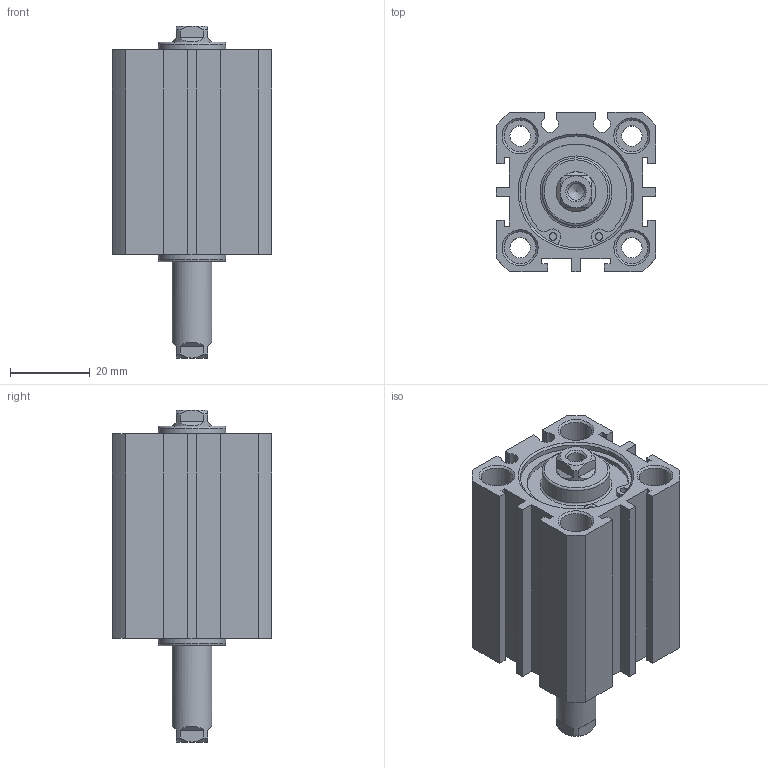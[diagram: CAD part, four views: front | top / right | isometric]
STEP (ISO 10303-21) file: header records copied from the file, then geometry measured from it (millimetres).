
FILE_DESCRIPTION((''),'2;1');
FILE_NAME('I:\3D電子目錄\氣缸\JDD\JDD-S\JDD25-S\JDD25x20-S.stp','2007-02-08T14:24:48',('662F206'),(''),'Autodesk Inventor 10','Autodesk Inventor 10','');
FILE_SCHEMA(('AUTOMOTIVE_DESIGN { 1 0 10303 214 1 1 1 1 }'));
Length unit declared in the file: millimetre
Products named in the file (3): JDD25-S; R 形環 28
Assembly tree (3 placements, depth 2):
  JDD25-S
    JDD25-S
    R 形環 28  x2
Bounding box: 40 x 40 x 83.2 mm (x, y, z)
Volume: 67245.8 mm3; surface area: 21809.5 mm2
Topology: 3 solids, 3 shells, 172 faces, 410 edges, 266 vertices
Faces by surface type: plane 92, cylinder 46, cone 22, bspline 10, torus 2
Full cylindrical faces by diameter (mm): 1.5 x2, 1.9 x4, 5.1 x4, 8 x8, 10 x2, 17 x2, 28 x4, 29.4 x2
Entity records: 4529 total; most frequent: CARTESIAN_POINT 950, DIRECTION 740, ORIENTED_EDGE 640, EDGE_CURVE 320, AXIS2_PLACEMENT_3D 280, EDGE_LOOP 244, VERTEX_POINT 236, VECTOR 180
